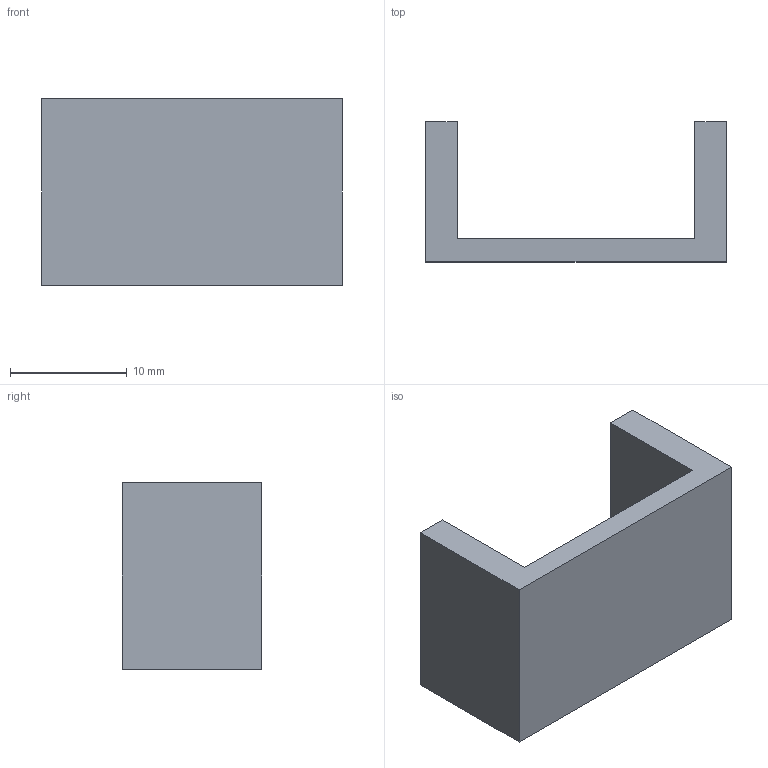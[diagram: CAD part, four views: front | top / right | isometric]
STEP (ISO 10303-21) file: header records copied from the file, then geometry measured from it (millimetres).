
FILE_DESCRIPTION(('Open CASCADE Model'),'2;1');
FILE_NAME('Open CASCADE Shape Model','2026-09-13T11:11:48',('Author'),( 'Open CASCADE'),'Open CASCADE STEP processor 7.9','Open CASCADE 7.9' ,'Unknown');
FILE_SCHEMA(('AUTOMOTIVE_DESIGN { 1 0 10303 214 1 1 1 1 }'));
Length unit declared in the file: millimetre
Products named in the file (1): Open CASCADE STEP translator 7.9 27
Bounding box: 25.8 x 12 x 16 mm (x, y, z)
Volume: 1689.6 mm3; surface area: 1740.8 mm2
Topology: 1 solids, 1 shells, 10 faces, 24 edges, 16 vertices
Faces by surface type: plane 10
Entity records: 610 total; most frequent: CARTESIAN_POINT 99, DIRECTION 94, LINE 72, VECTOR 72, ORIENTED_EDGE 48, PCURVE 48, DEFINITIONAL_REPRESENTATION 48, EDGE_CURVE 24
